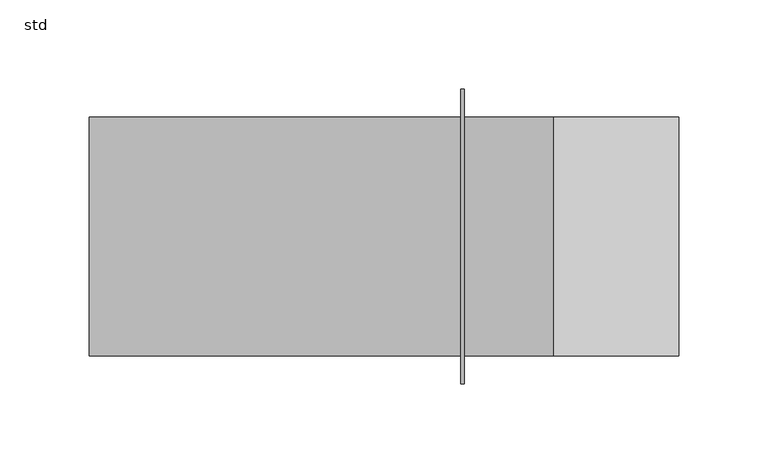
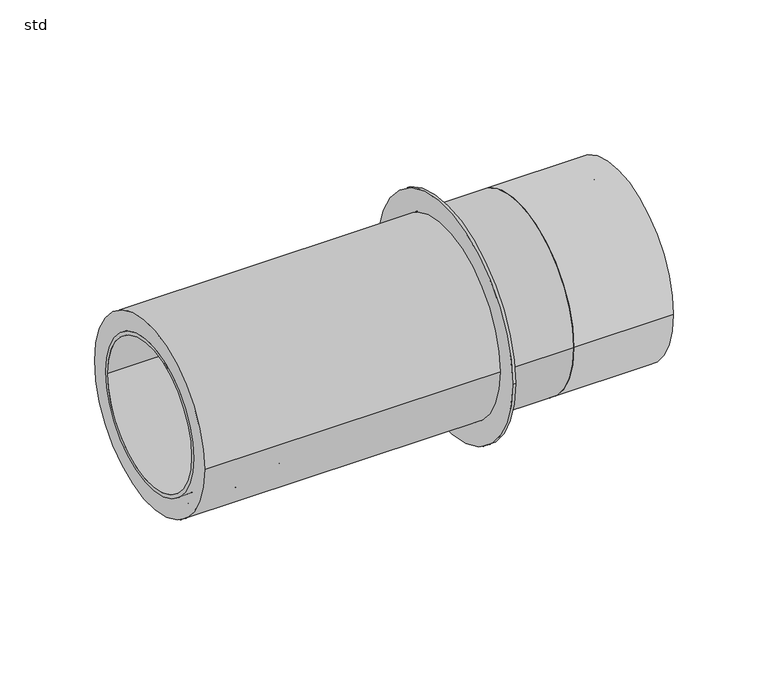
"""IFC4 building model written with IfcOpenShell, lengths in millimetres: pipe fitting geometry, PIF_ST_UN_GM-X compound pipe down-pipe (multiport)_ACO : std."""

from ifc_helpers import new_model, si_unit, point, frame, origin, origin_2d, place, context, project, spatial, polyline, circle_curve, trimmed, segment, composite_curve, outline, extrude, source, transform, mapped, element, save
from ifc_brep_helpers import plane_surface, cylinder_surface, revolved_surface, advanced_brep


def std_03afe594(model_context):
    return source(origin(), model_context, "Body", "SolidModel", [
        extrude(outline(composite_curve([segment(trimmed(circle_curve(origin_2d(), 67.0), [point((-67.0, 0.0))], [point((67.0, 0.0))], False, "CARTESIAN"), True, "CONTINUOUS"), segment(trimmed(circle_curve(origin_2d(), 67.0), [point((67.0, 0.0))], [point((-67.0, 0.0))], False, "CARTESIAN"), True, "CONTINUOUS")], self_intersect=False), holes=[composite_curve([segment(trimmed(circle_curve(origin_2d(), 53.5), [point((-53.5, 0.0))], [point((53.5, 0.0))], True, "CARTESIAN"), True, "CONTINUOUS"), segment(trimmed(circle_curve(origin_2d(), 53.5), [point((53.5, 0.0))], [point((-53.5, 0.0))], True, "CARTESIAN"), True, "CONTINUOUS")], self_intersect=False)]), frame((190.0, 0.0, 0.0), z_axis=(1.0, 0.0, 0.0), x_axis=(0.0, 1.0, 0.0)), (0.0, 0.0, 1.0), 70.0),
        advanced_brep(
        [(260.0, -53.5, 0.0), (260.0, 53.5, 0.0), (260.0, 51.0, 0.0), (260.0, -51.0, 0.0), (190.0, -53.5, 0.0), (190.0, 53.5, 0.0), (190.0, -51.0, 0.0), (190.0, 51.0, 0.0), (227.0, -53.5, 0.0), (227.0, 53.5, 0.0), (198.3, 53.5, 0.0), (198.3, -53.5, 0.0), (227.0, -59.0, 0.0), (227.0, 59.0, 0.0), (198.3, -59.0, 0.0), (198.3, 59.0, 0.0)],
        [
            (0, 1, circle_curve(frame((260.0, 0.0, 0.0), z_axis=(1.0, 0.0, 0.0), x_axis=(0.0, 1.0, 0.0)), 53.5)),
            (1, 0, circle_curve(frame((260.0, 0.0, 0.0), z_axis=(1.0, 0.0, 0.0), x_axis=(0.0, 1.0, 0.0)), 53.5)),
            (2, 3, circle_curve(frame((260.0, 0.0, 0.0), z_axis=(-1.0, 0.0, 0.0), x_axis=(0.0, 1.0, 0.0)), 51.0)),
            (3, 2, circle_curve(frame((260.0, 0.0, 0.0), z_axis=(-1.0, 0.0, 0.0), x_axis=(0.0, 1.0, 0.0)), 51.0)),
            (4, 5, circle_curve(frame((190.0, 0.0, 0.0), z_axis=(-1.0, 0.0, 0.0), x_axis=(0.0, 1.0, 0.0)), 53.5)),
            (5, 4, circle_curve(frame((190.0, 0.0, 0.0), z_axis=(-1.0, 0.0, 0.0), x_axis=(0.0, 1.0, 0.0)), 53.5)),
            (6, 7, circle_curve(frame((190.0, 0.0, 0.0), z_axis=(1.0, 0.0, 0.0), x_axis=(0.0, 1.0, 0.0)), 51.0)),
            (7, 6, circle_curve(frame((190.0, 0.0, 0.0), z_axis=(1.0, 0.0, 0.0), x_axis=(0.0, 1.0, 0.0)), 51.0)),
            (0, 8),
            (8, 9, circle_curve(frame((227.0, 0.0, 0.0), z_axis=(1.0, 0.0, 0.0), x_axis=(0.0, 1.0, 0.0)), 53.5)),
            (9, 1),
            (5, 10),
            (10, 11, circle_curve(frame((198.3, 0.0, 0.0), z_axis=(-1.0, 0.0, 0.0), x_axis=(0.0, 1.0, 0.0)), 53.5)),
            (11, 4),
            (9, 8, circle_curve(frame((227.0, 0.0, 0.0), z_axis=(1.0, 0.0, 0.0), x_axis=(0.0, 1.0, 0.0)), 53.5)),
            (11, 10, circle_curve(frame((198.3, 0.0, 0.0), z_axis=(-1.0, 0.0, 0.0), x_axis=(0.0, 1.0, 0.0)), 53.5)),
            (2, 7),
            (6, 3),
            (12, 13, circle_curve(frame((227.0, 0.0, 0.0), z_axis=(1.0, 0.0, 0.0), x_axis=(0.0, 1.0, 0.0)), 59.0)),
            (13, 12, circle_curve(frame((227.0, 0.0, 0.0), z_axis=(1.0, 0.0, 0.0), x_axis=(0.0, 1.0, 0.0)), 59.0)),
            (14, 15, circle_curve(frame((198.3, 0.0, 0.0), z_axis=(-1.0, 0.0, 0.0), x_axis=(0.0, 1.0, 0.0)), 59.0)),
            (15, 14, circle_curve(frame((198.3, 0.0, 0.0), z_axis=(-1.0, 0.0, 0.0), x_axis=(0.0, 1.0, 0.0)), 59.0)),
            (12, 14),
            (15, 13),
        ],
        [
            plane_surface(frame((260.0, 53.5, 0.0), z_axis=(1.0, 0.0, 0.0), x_axis=(0.0, 0.0, 1.0))),
            plane_surface(frame((190.0, 53.5, 0.0), z_axis=(-1.0, 0.0, 0.0), x_axis=(0.0, 0.0, -1.0))),
            cylinder_surface(frame((190.0, 0.0, 0.0), z_axis=(1.0, 0.0, 0.0), x_axis=(0.0, 1.0, 0.0)), 53.5),
            revolved_surface(polyline([(260.0, 51.0, 0.0), (190.0, 51.0, 0.0)]), (190.0, 0.0, 0.0), (1.0, 0.0, 0.0)),
            plane_surface(frame((227.0, 59.0, 0.0), z_axis=(1.0, 0.0, 0.0), x_axis=(0.0, 0.0, 1.0))),
            plane_surface(frame((198.3, 59.0, 0.0), z_axis=(-1.0, 0.0, 0.0), x_axis=(0.0, 0.0, -1.0))),
            cylinder_surface(frame((198.3, 0.0, 0.0), z_axis=(1.0, 0.0, 0.0), x_axis=(0.0, 1.0, 0.0)), 59.0),
        ],
        [
            (0, [[1, 2], [3, 4]]),
            (1, [[5, 6], [7, 8]]),
            (2, [[-1, 9, 10, 11]]),
            (2, [[-6, 12, 13, 14]]),
            (2, [[-2, -11, 15, -9]]),
            (2, [[-5, -14, 16, -12]]),
            (3, [[17, -7, 18, -3]]),
            (3, [[-17, -4, -18, -8]]),
            (4, [[19, 20], [-10, -15]]),
            (5, [[21, 22], [-13, -16]]),
            (6, [[-19, 23, -22, 24]]),
            (6, [[-20, -24, -21, -23]]),
        ],
    ),
        advanced_brep(
        [(-61.7, -59.0, 0.0), (-61.7, 59.0, 0.0), (-33.0, 59.0, 0.0), (-33.0, -59.0, 0.0), (-70.0, 53.5, 0.0), (-70.0, -53.5, 0.0), (-70.0, -51.0, 0.0), (-70.0, 51.0, 0.0), (0.0, 53.5, 0.0), (0.0, -53.5, 0.0), (0.0, 51.0, 0.0), (0.0, -51.0, 0.0), (-61.7, 53.5, 0.0), (-61.7, -53.5, 0.0), (-33.0, -53.5, 0.0), (-33.0, 53.5, 0.0)],
        [
            (0, 1, circle_curve(frame((-61.7, 0.0, 0.0), z_axis=(1.0, 0.0, 0.0), x_axis=(0.0, -1.0, 0.0)), 59.0)),
            (1, 2),
            (2, 3, circle_curve(frame((-33.0, 0.0, 0.0), z_axis=(-1.0, 0.0, 0.0), x_axis=(0.0, -1.0, 0.0)), 59.0)),
            (3, 0),
            (1, 0, circle_curve(frame((-61.7, 0.0, 0.0), z_axis=(1.0, 0.0, 0.0), x_axis=(0.0, -1.0, 0.0)), 59.0)),
            (3, 2, circle_curve(frame((-33.0, 0.0, 0.0), z_axis=(-1.0, 0.0, 0.0), x_axis=(0.0, -1.0, 0.0)), 59.0)),
            (4, 5, circle_curve(frame((-70.0, 0.0, 0.0), z_axis=(-1.0, 0.0, 0.0), x_axis=(0.0, -1.0, 0.0)), 53.5)),
            (5, 4, circle_curve(frame((-70.0, 0.0, 0.0), z_axis=(-1.0, 0.0, 0.0), x_axis=(0.0, -1.0, 0.0)), 53.5)),
            (6, 7, circle_curve(frame((-70.0, 0.0, 0.0), z_axis=(1.0, 0.0, 0.0), x_axis=(0.0, -1.0, 0.0)), 51.0)),
            (7, 6, circle_curve(frame((-70.0, 0.0, 0.0), z_axis=(1.0, 0.0, 0.0), x_axis=(0.0, -1.0, 0.0)), 51.0)),
            (8, 9, circle_curve(frame((0.0, 0.0, 0.0), z_axis=(1.0, 0.0, 0.0), x_axis=(0.0, -1.0, 0.0)), 53.5)),
            (9, 8, circle_curve(frame((0.0, 0.0, 0.0), z_axis=(1.0, 0.0, 0.0), x_axis=(0.0, -1.0, 0.0)), 53.5)),
            (10, 11, circle_curve(frame((0.0, 0.0, 0.0), z_axis=(-1.0, 0.0, 0.0), x_axis=(0.0, -1.0, 0.0)), 51.0)),
            (11, 10, circle_curve(frame((0.0, 0.0, 0.0), z_axis=(-1.0, 0.0, 0.0), x_axis=(0.0, -1.0, 0.0)), 51.0)),
            (4, 12),
            (12, 13, circle_curve(frame((-61.7, 0.0, 0.0), z_axis=(-1.0, 0.0, 0.0), x_axis=(0.0, -1.0, 0.0)), 53.5)),
            (13, 5),
            (9, 14),
            (14, 15, circle_curve(frame((-33.0, 0.0, 0.0), z_axis=(1.0, 0.0, 0.0), x_axis=(0.0, -1.0, 0.0)), 53.5)),
            (15, 8),
            (13, 12, circle_curve(frame((-61.7, 0.0, 0.0), z_axis=(-1.0, 0.0, 0.0), x_axis=(0.0, -1.0, 0.0)), 53.5)),
            (15, 14, circle_curve(frame((-33.0, 0.0, 0.0), z_axis=(1.0, 0.0, 0.0), x_axis=(0.0, -1.0, 0.0)), 53.5)),
            (6, 11),
            (10, 7),
        ],
        [
            cylinder_surface(frame((-33.0, 0.0, 0.0), z_axis=(-1.0, 0.0, 0.0), x_axis=(0.0, -1.0, 0.0)), 59.0),
            plane_surface(frame((-70.0, -53.5, 0.0), z_axis=(-1.0, 0.0, 0.0), x_axis=(0.0, 0.0, 1.0))),
            plane_surface(frame((0.0, -53.5, 0.0), z_axis=(1.0, 0.0, 0.0), x_axis=(0.0, 0.0, -1.0))),
            cylinder_surface(frame((0.0, 0.0, 0.0), z_axis=(-1.0, 0.0, 0.0), x_axis=(0.0, -1.0, 0.0)), 53.5),
            revolved_surface(polyline([(-70.0, -51.0, 0.0), (0.0, -51.0, 0.0)]), (0.0, 0.0, 0.0), (-1.0, 0.0, 0.0)),
            plane_surface(frame((-61.7, -59.0, 0.0), z_axis=(-1.0, 0.0, 0.0), x_axis=(0.0, 0.0, 1.0))),
            plane_surface(frame((-33.0, -59.0, 0.0), z_axis=(1.0, 0.0, 0.0), x_axis=(0.0, 0.0, -1.0))),
        ],
        [
            (0, [[1, 2, 3, 4]]),
            (0, [[5, -4, 6, -2]]),
            (1, [[7, 8], [9, 10]]),
            (2, [[11, 12], [13, 14]]),
            (3, [[-7, 15, 16, 17]]),
            (3, [[-12, 18, 19, 20]]),
            (3, [[-8, -17, 21, -15]]),
            (3, [[-11, -20, 22, -18]]),
            (4, [[23, -13, 24, -9]]),
            (4, [[-23, -10, -24, -14]]),
            (5, [[-1, -5], [-16, -21]]),
            (6, [[-6, -3], [-19, -22]]),
        ],
    ),
        extrude(outline(composite_curve([segment(trimmed(circle_curve(origin_2d(), 82.5), [point((-82.5, 0.0))], [point((82.5, 0.0))], False, "CARTESIAN"), True, "CONTINUOUS"), segment(trimmed(circle_curve(origin_2d(), 82.5), [point((82.5, 0.0))], [point((-82.5, 0.0))], False, "CARTESIAN"), True, "CONTINUOUS")], self_intersect=False), holes=[composite_curve([segment(trimmed(circle_curve(origin_2d(), 67.0), [point((-67.0, 0.0))], [point((67.0, 0.0))], True, "CARTESIAN"), True, "CONTINUOUS"), segment(trimmed(circle_curve(origin_2d(), 67.0), [point((67.0, 0.0))], [point((-67.0, 0.0))], True, "CARTESIAN"), True, "CONTINUOUS")], self_intersect=False)]), frame((138.0, 0.0, 0.0), z_axis=(1.0, 0.0, 0.0), x_axis=(0.0, 1.0, 0.0)), (0.0, 0.0, 1.0), 2.0),
        advanced_brep(
        [(-70.0, -67.0, 0.0), (-70.0, 67.0, 0.0), (-70.0, 53.5, 0.0), (-70.0, -53.5, 0.0), (190.0, -67.0, 0.0), (190.0, 67.0, 0.0), (0.0, -53.5, 0.0), (0.0, 53.5, 0.0)],
        [
            (0, 1, circle_curve(frame((-70.0, 0.0, 0.0), z_axis=(-1.0, 0.0, 0.0), x_axis=(0.0, 1.0, 0.0)), 67.0)),
            (1, 0, circle_curve(frame((-70.0, 0.0, 0.0), z_axis=(-1.0, 0.0, 0.0), x_axis=(0.0, 1.0, 0.0)), 67.0)),
            (2, 3, circle_curve(frame((-70.0, 0.0, 0.0), z_axis=(1.0, 0.0, 0.0), x_axis=(0.0, 1.0, 0.0)), 53.5)),
            (3, 2, circle_curve(frame((-70.0, 0.0, 0.0), z_axis=(1.0, 0.0, 0.0), x_axis=(0.0, 1.0, 0.0)), 53.5)),
            (4, 5, circle_curve(frame((190.0, 0.0, 0.0), z_axis=(1.0, 0.0, 0.0), x_axis=(0.0, 1.0, 0.0)), 67.0)),
            (5, 4, circle_curve(frame((190.0, 0.0, 0.0), z_axis=(1.0, 0.0, 0.0), x_axis=(0.0, 1.0, 0.0)), 67.0)),
            (0, 4),
            (5, 1),
            (6, 7, circle_curve(frame((0.0, 0.0, 0.0), z_axis=(-1.0, 0.0, 0.0), x_axis=(0.0, 1.0, 0.0)), 53.5)),
            (7, 6, circle_curve(frame((0.0, 0.0, 0.0), z_axis=(-1.0, 0.0, 0.0), x_axis=(0.0, 1.0, 0.0)), 53.5)),
            (6, 3),
            (2, 7),
        ],
        [
            plane_surface(frame((-70.0, 67.0, 0.0), z_axis=(-1.0, 0.0, 0.0), x_axis=(0.0, 0.0, -1.0))),
            plane_surface(frame((190.0, 67.0, 0.0), z_axis=(1.0, 0.0, 0.0), x_axis=(0.0, 0.0, 1.0))),
            cylinder_surface(frame((190.0, 0.0, 0.0), z_axis=(-1.0, 0.0, 0.0), x_axis=(0.0, 1.0, 0.0)), 67.0),
            plane_surface(frame((0.0, 53.5, 0.0), z_axis=(-1.0, 0.0, 0.0), x_axis=(0.0, 0.0, 1.0))),
            revolved_surface(polyline([(-70.0, 53.5, 0.0), (0.0, 53.5, 0.0)]), (0.0, 0.0, 0.0), (-1.0, 0.0, 0.0)),
        ],
        [
            (0, [[1, 2], [3, 4]]),
            (1, [[5, 6]]),
            (2, [[-1, 7, -6, 8]]),
            (2, [[-2, -8, -5, -7]]),
            (3, [[9, 10]]),
            (4, [[-9, 11, -3, 12]]),
            (4, [[-10, -12, -4, -11]]),
        ],
    ),
        extrude(outline(composite_curve([segment(trimmed(circle_curve(origin_2d(), 51.0), [point((51.0, 0.0))], [point((-51.0, 0.0))], False, "CARTESIAN"), True, "CONTINUOUS"), segment(trimmed(circle_curve(origin_2d(), 51.0), [point((-51.0, 0.0))], [point((51.0, 0.0))], False, "CARTESIAN"), True, "CONTINUOUS")], self_intersect=False)), frame((190.0, 0.0, 0.0), z_axis=(1.0, 0.0, 0.0), x_axis=(0.0, 1.0, 0.0)), (0.0, 0.0, 1.0), 70.0),
    ])


if __name__ == "__main__":
    model = new_model("IFC4")
    model_context = context("Model", 3, world=origin())
    ifc_project = project(units=[si_unit("LENGTHUNIT", "METRE", prefix="MILLI")], contexts=[model_context])
    site = spatial("IfcSite", under=ifc_project)
    building = spatial("IfcBuilding", under=site)
    placement = place(None, origin())
    std_shape = std_03afe594(model_context)
    element("IfcPipeFitting", 1, ObjectType="PIF_ST_UN_GM-X compound pipe down-pipe (multiport)_ACO : std", at=placement, inside=building, context=model_context, shape_type="MappedRepresentation", body=[
        mapped(std_shape, transform((0.0, 0.0, 0.0), x_axis=(1.0, 0.0, 0.0), y_axis=(0.0, 1.0, 0.0), z_axis=(0.0, 0.0, 1.0))),
    ])
    save(model, "model.ifc")
